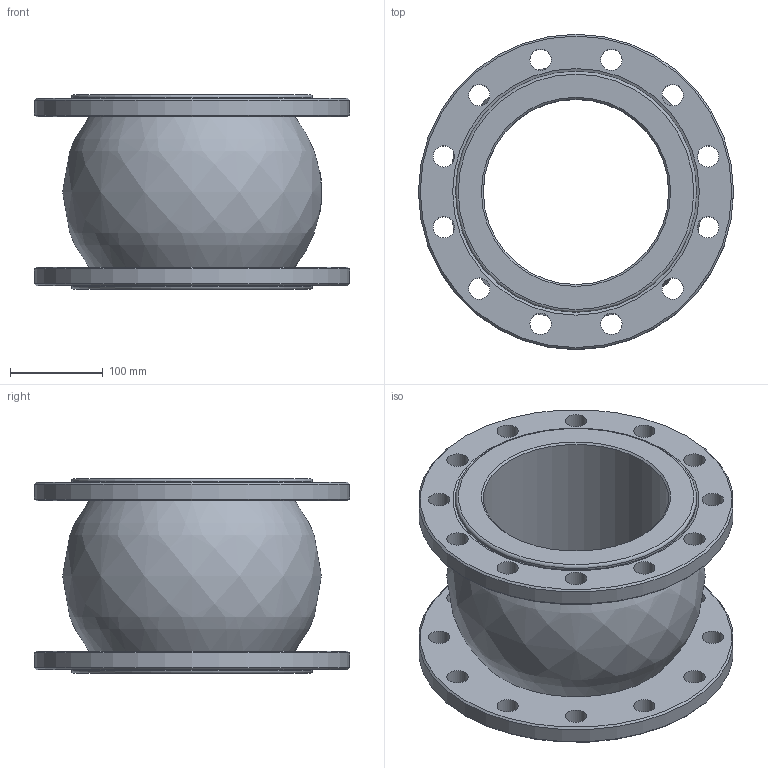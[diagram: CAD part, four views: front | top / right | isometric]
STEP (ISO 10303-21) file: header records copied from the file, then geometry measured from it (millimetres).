
FILE_DESCRIPTION(/* description */ ('D140--02107','CAx-IF Rec.Pracs.---Representation and Presentation of Product Manufacturing Information (PMI)---4.0---2014-10-13'),/* implementation_level */ '2;1');
FILE_NAME(/* name */ '',/* time_stamp */ '2026-03-11T00:47:34+03:00',/* author */ ('DN.RU'),/* organization */ ('DN.RU'),/* preprocessor_version */ 'ST-DEVELOPER v20',/* originating_system */ 'Autodesk Inventor 2025',/* authorisation */ '');
FILE_SCHEMA (('AP242_MANAGED_MODEL_BASED_3D_ENGINEERING_MIM_LF { 1 0 10303 442 1 1 4 }'));
Length unit declared in the file: millimetre
Products named in the file (1): CR-N34-F
Bounding box: 340 x 340 x 210 mm (x, y, z)
Volume: 5949125.4 mm3; surface area: 556400.1 mm2
Topology: 1 solids, 1 shells, 115 faces, 316 edges, 210 vertices
Faces by surface type: plane 43, bspline 34, cylinder 29, cone 7, torus 2
Full cylindrical faces by diameter (mm): 23 x24, 200 x1, 260 x2, 340 x2
Entity records: 4985 total; most frequent: CARTESIAN_POINT 1692, ORIENTED_EDGE 632, DIRECTION 628, EDGE_CURVE 316, AXIS2_PLACEMENT_3D 266, VERTEX_POINT 210, EDGE_LOOP 172, CIRCLE 171
